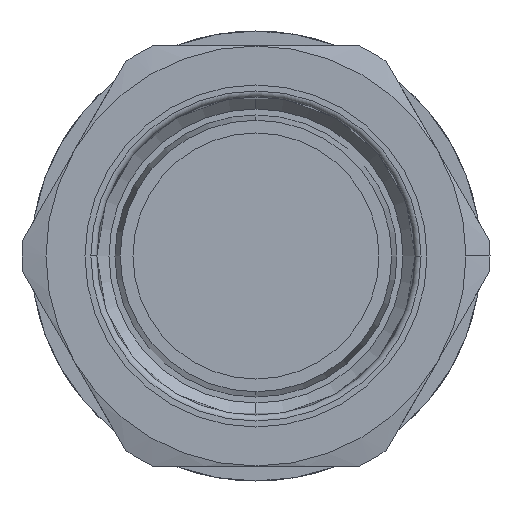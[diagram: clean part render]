
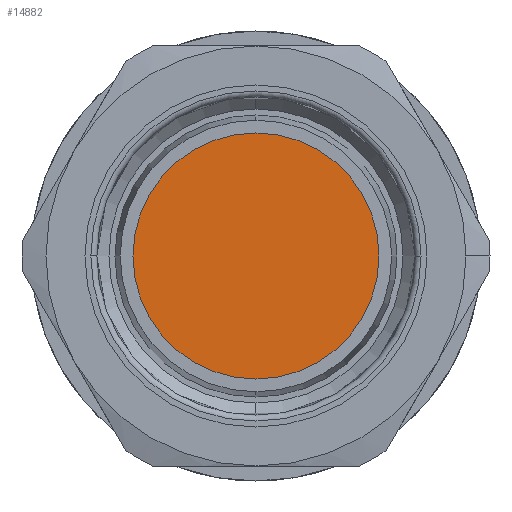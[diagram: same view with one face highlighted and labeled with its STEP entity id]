
A CAD part, front view. The second image highlights one B-rep face of the part: STEP entity #14882.
In plain terms, the highlighted planar face has unit normal (0, -1, 0).
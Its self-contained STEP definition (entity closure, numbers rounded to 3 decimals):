
#19 = CARTESIAN_POINT ( 'NONE',  ( 0., 23.074, 0. ) ) ;
#344 = DIRECTION ( 'NONE',  ( 0., 1., 0. ) ) ;
#922 = VERTEX_POINT ( 'NONE', #9792 ) ;
#1279 = ORIENTED_EDGE ( 'NONE', *, *, #17593, .F. ) ;
#1291 = DIRECTION ( 'NONE',  ( 0., 1., 0. ) ) ;
#1445 = DIRECTION ( 'NONE',  ( 0., 0., 1. ) ) ;
#1664 = AXIS2_PLACEMENT_3D ( 'NONE', #10822, #1291, #1445 ) ;
#2136 = DIRECTION ( 'NONE',  ( 0., 0., 1. ) ) ;
#2833 = AXIS2_PLACEMENT_3D ( 'NONE', #2913, #4578, #8174 ) ;
#2913 = CARTESIAN_POINT ( 'NONE',  ( 0., 23.074, 0. ) ) ;
#3987 = EDGE_LOOP ( 'NONE', ( #5036, #1279 ) ) ;
#4578 = DIRECTION ( 'NONE',  ( 0., 1., 0. ) ) ;
#5036 = ORIENTED_EDGE ( 'NONE', *, *, #17281, .F. ) ;
#6452 = CIRCLE ( 'NONE', #2833, 20.5 ) ;
#7368 = AXIS2_PLACEMENT_3D ( 'NONE', #19, #344, #2136 ) ;
#8174 = DIRECTION ( 'NONE',  ( 0., 0., 1. ) ) ;
#9792 = CARTESIAN_POINT ( 'NONE',  ( 0., 23.074, -20.5 ) ) ;
#10822 = CARTESIAN_POINT ( 'NONE',  ( 0., 23.074, 0. ) ) ;
#12723 = FACE_OUTER_BOUND ( 'NONE', #3987, .T. ) ;
#13741 = VERTEX_POINT ( 'NONE', #13806 ) ;
#13806 = CARTESIAN_POINT ( 'NONE',  ( 0., 23.074, 20.5 ) ) ;
#14882 = ADVANCED_FACE ( 'NONE', ( #12723 ), #21845, .F. ) ;
#16417 = CIRCLE ( 'NONE', #7368, 20.5 ) ;
#17281 = EDGE_CURVE ( 'NONE', #13741, #922, #6452, .T. ) ;
#17593 = EDGE_CURVE ( 'NONE', #922, #13741, #16417, .T. ) ;
#21845 = PLANE ( 'NONE',  #1664 ) ;
